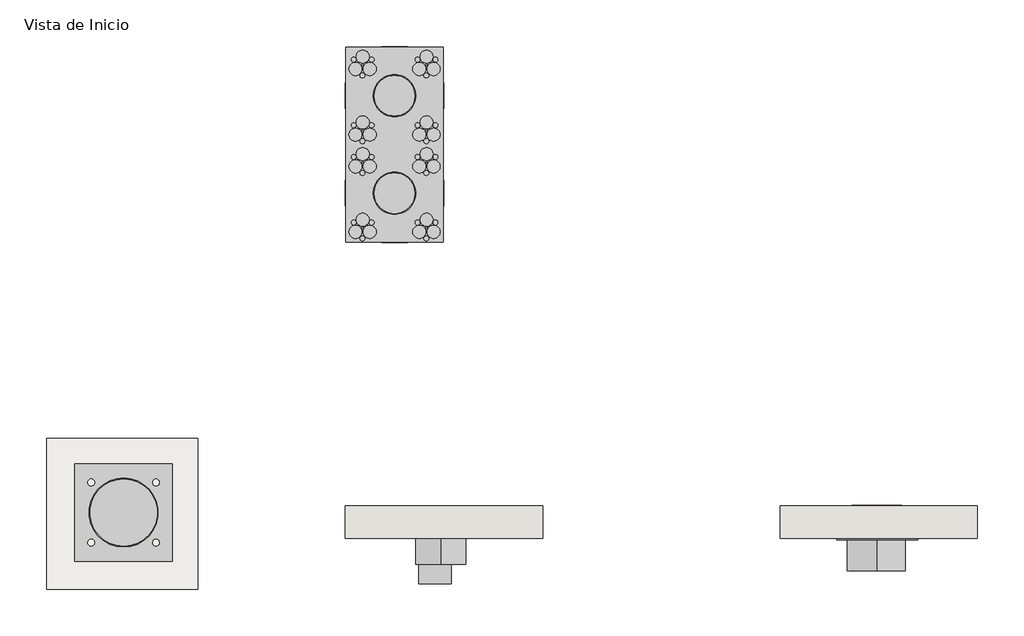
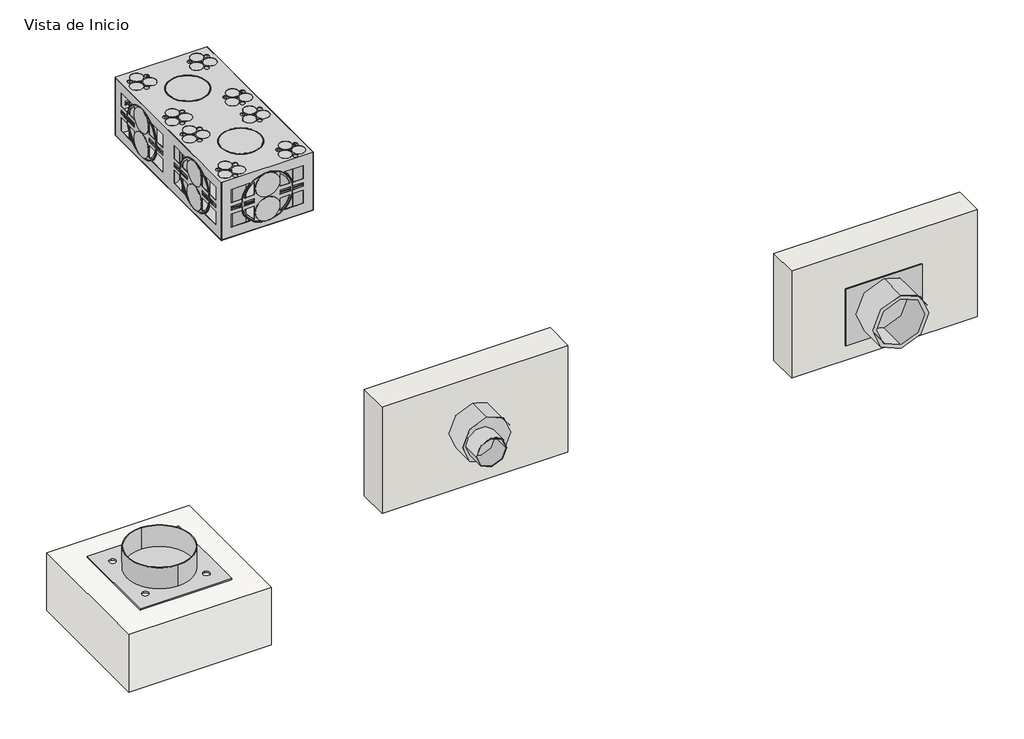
# One storey, incomplete: 3 pipe fittings, 2 walls, 1 proxy, 1 slab.
"""IFC4 building model written with IfcOpenShell, lengths in millimetres."""

from ifc_helpers import new_model, si_unit, frame, origin, origin_with_axes, place, context, project, spatial, polyline, outline, extrude, transform, mapped, element, save
from components import var_ef881a78, var_9defbf0c, var_21599c06, var_300c146d, var_8eb57f07

model = new_model("IFC4")

# Units and contexts
model_context = context("Model", 3, world=origin())
ifc_project = project(units=[si_unit("LENGTHUNIT", "METRE", prefix="MILLI")], contexts=[model_context])

# Site, building, storey
site = spatial("IfcSite", under=ifc_project)
building = spatial("IfcBuilding", under=site)
storey = spatial("IfcBuildingStorey", under=building, Name="Vista de Inicio", Elevation=0.0)

# Proxy
placement = place(None, origin())
var_shape = var_ef881a78(model_context)
var_2_shape = var_9defbf0c(model_context)
element("IfcBuildingElementProxy", 1, Name="PavcoWavin_EquiposMecánicos_AquaCellNG : Var.", ObjectType="PavcoWavin_EquiposMecánicos_AquaCellNG : Var.", at=placement, inside=storey, context=model_context, shape_type="MappedRepresentation", body=[
    mapped(var_shape, transform((-155.0967883, -4581.5199453, 780.0), x_axis=(1.0, 0.0, 0.0), y_axis=(0.0, 1.0, 0.0), z_axis=(0.0, 0.0, 1.0))),
    mapped(var_2_shape, transform((-155.0967883, -4581.5199453, 780.0), x_axis=(1.0, 0.0, 0.0), y_axis=(0.0, 1.0, 0.0), z_axis=(0.0, 0.0, 1.0))),
])

# Pipe fittings
var_3_shape = var_21599c06(model_context)
element("IfcPipeFitting", 2, ObjectType="PavcoWavin_UnionesDeTuberia_AquacellNGAdaptador : Var", at=placement, inside=storey, context=model_context, shape_type="MappedRepresentation", body=[
    mapped(var_3_shape, transform((133.9032117, -7006.2479331, 399.3), x_axis=(0.0, 0.0, 1.0), y_axis=(-1.0, 0.0, 0.0), z_axis=(0.0, -1.0, 0.0))),
])
var_4_shape = var_300c146d(model_context)
element("IfcPipeFitting", 3, ObjectType="PavcoWavin_UnionesDeTuberia_AquacellCoreAdaptador : Var", at=placement, inside=storey, context=model_context, shape_type="MappedRepresentation", body=[
    mapped(var_4_shape, transform((2814.9032117, -7006.2479331, 300.4), x_axis=(0.0, 0.0, 1.0), y_axis=(-1.0, 0.0, 0.0), z_axis=(0.0, -1.0, 0.0))),
])
var_5_shape = var_8eb57f07(model_context)
element("IfcPipeFitting", 4, ObjectType="PavcoWavin_UnionesDeTuberia_AquacellNGConexiónInspecciónNG : Var", at=placement, inside=storey, context=model_context, shape_type="MappedRepresentation", body=[
    mapped(var_5_shape, transform((-1822.0967883, -6848.2479331, 0.0), x_axis=(0.0, 1.0, 0.0), y_axis=(-1.0, 0.0, 0.0), z_axis=(0.0, 0.0, 1.0))),
])

# Slab
element("IfcSlab", 5, ObjectType="Generic Floor - 400mm", at=placement, inside=storey, context=model_context, shape_type="SweptSolid", body=[
    extrude(outline(polyline([(-1365.1247287, -6391.7287059), (-1365.1247287, -7321.7287059), (-2296.1247287, -7321.7287059), (-2296.1247287, -6391.7287059), (-1365.1247287, -6391.7287059)])), frame((0.0, 0.0, -400.0), z_axis=(0.0, 0.0, 1.0), x_axis=(1.0, 0.0, 0.0)), (0.0, 0.0, 1.0), 400.0),
])

# Walls
element("IfcWall", 6, ObjectType="Generic - 200mm", at=placement, inside=storey, context=model_context, shape_type="SweptSolid", body=[
    extrude(outline(polyline([(3431.9032117, -7006.2479331), (2217.9032117, -7006.2479331), (2217.9032117, -6806.2479331), (3431.9032117, -6806.2479331), (3431.9032117, -7006.2479331)])), origin_with_axes(), (0.0, 0.0, 1.0), 737.5461815),
])
element("IfcWall", 7, ObjectType="Generic - 200mm", at=placement, inside=storey, context=model_context, shape_type="SweptSolid", body=[
    extrude(outline(polyline([(755.9032117, -7006.2479331), (-458.0967883, -7006.2479331), (-458.0967883, -6806.2479331), (755.9032117, -6806.2479331), (755.9032117, -7006.2479331)])), origin_with_axes(), (0.0, 0.0, 1.0), 737.5461815),
])

save(model, "model.ifc")
